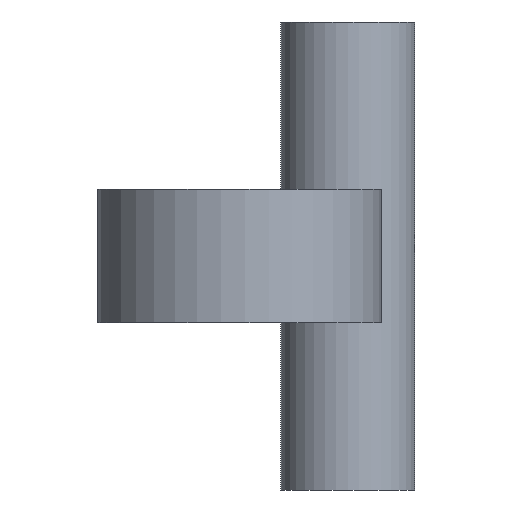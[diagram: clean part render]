
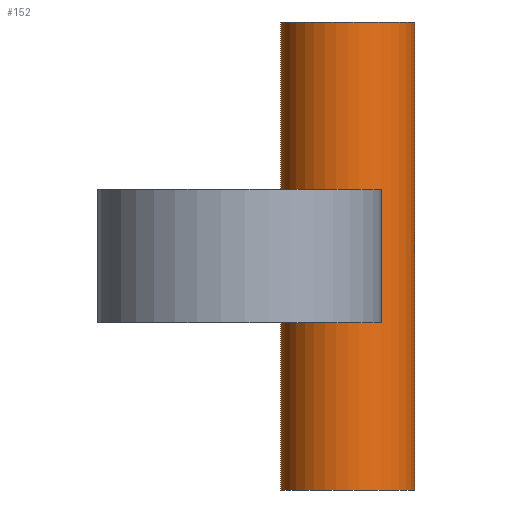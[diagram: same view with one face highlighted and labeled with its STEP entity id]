
A CAD part, front view. The second image highlights one B-rep face of the part: STEP entity #152.
In plain terms, the highlighted cylindrical face has radius 2 mm (diameter 4 mm), a full revolution.
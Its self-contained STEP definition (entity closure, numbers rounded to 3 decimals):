
#21=FACE_BOUND('',#34,.T.);
#24=FACE_OUTER_BOUND('',#33,.T.);
#33=EDGE_LOOP('',(#109,#110,#111,#112,#113,#114));
#34=EDGE_LOOP('',(#115,#116,#117,#118));
#45=LINE('',#257,#55);
#46=LINE('',#265,#56);
#47=LINE('',#268,#57);
#55=VECTOR('',#208,2.);
#56=VECTOR('',#215,10.);
#57=VECTOR('',#218,10.);
#65=CIRCLE('',#182,2.);
#66=CIRCLE('',#183,2.);
#67=CIRCLE('',#184,2.);
#68=CIRCLE('',#185,2.);
#69=CIRCLE('',#186,2.);
#70=CIRCLE('',#187,2.);
#75=VERTEX_POINT('',#252);
#76=VERTEX_POINT('',#253);
#77=VERTEX_POINT('',#256);
#78=VERTEX_POINT('',#258);
#79=VERTEX_POINT('',#261);
#80=VERTEX_POINT('',#262);
#81=VERTEX_POINT('',#264);
#82=VERTEX_POINT('',#266);
#89=EDGE_CURVE('',#75,#76,#65,.T.);
#90=EDGE_CURVE('',#76,#75,#66,.T.);
#91=EDGE_CURVE('',#76,#77,#45,.T.);
#92=EDGE_CURVE('',#78,#77,#67,.T.);
#93=EDGE_CURVE('',#77,#78,#68,.T.);
#94=EDGE_CURVE('',#79,#80,#69,.T.);
#95=EDGE_CURVE('',#79,#81,#46,.T.);
#96=EDGE_CURVE('',#82,#81,#70,.T.);
#97=EDGE_CURVE('',#80,#82,#47,.T.);
#109=ORIENTED_EDGE('',*,*,#89,.F.);
#110=ORIENTED_EDGE('',*,*,#90,.F.);
#111=ORIENTED_EDGE('',*,*,#91,.T.);
#112=ORIENTED_EDGE('',*,*,#92,.F.);
#113=ORIENTED_EDGE('',*,*,#93,.F.);
#114=ORIENTED_EDGE('',*,*,#91,.F.);
#115=ORIENTED_EDGE('',*,*,#94,.F.);
#116=ORIENTED_EDGE('',*,*,#95,.T.);
#117=ORIENTED_EDGE('',*,*,#96,.F.);
#118=ORIENTED_EDGE('',*,*,#97,.F.);
#149=CYLINDRICAL_SURFACE('',#181,2.);
#152=ADVANCED_FACE('',(#24,#21),#149,.T.);
#181=AXIS2_PLACEMENT_3D('',#251,#202,#203);
#182=AXIS2_PLACEMENT_3D('',#254,#204,#205);
#183=AXIS2_PLACEMENT_3D('',#255,#206,#207);
#184=AXIS2_PLACEMENT_3D('',#259,#209,#210);
#185=AXIS2_PLACEMENT_3D('',#260,#211,#212);
#186=AXIS2_PLACEMENT_3D('',#263,#213,#214);
#187=AXIS2_PLACEMENT_3D('',#267,#216,#217);
#202=DIRECTION('center_axis',(0.,0.,1.));
#203=DIRECTION('ref_axis',(1.,0.,0.));
#204=DIRECTION('center_axis',(0.,0.,1.));
#205=DIRECTION('ref_axis',(1.,0.,0.));
#206=DIRECTION('center_axis',(0.,0.,1.));
#207=DIRECTION('ref_axis',(1.,0.,0.));
#208=DIRECTION('',(0.,0.,-1.));
#209=DIRECTION('center_axis',(0.,0.,-1.));
#210=DIRECTION('ref_axis',(1.,0.,0.));
#211=DIRECTION('center_axis',(0.,0.,-1.));
#212=DIRECTION('ref_axis',(1.,0.,0.));
#213=DIRECTION('center_axis',(0.,0.,1.));
#214=DIRECTION('ref_axis',(-1.,0.,0.));
#215=DIRECTION('',(0.,0.,1.));
#216=DIRECTION('center_axis',(0.,0.,-1.));
#217=DIRECTION('ref_axis',(-1.,0.,0.));
#218=DIRECTION('',(0.,0.,1.));
#251=CARTESIAN_POINT('Origin',(3.25,22.717,0.));
#252=CARTESIAN_POINT('',(5.25,22.717,7.));
#253=CARTESIAN_POINT('',(1.25,22.717,7.));
#254=CARTESIAN_POINT('Origin',(3.25,22.717,7.));
#255=CARTESIAN_POINT('Origin',(3.25,22.717,7.));
#256=CARTESIAN_POINT('',(1.25,22.717,-7.));
#257=CARTESIAN_POINT('',(1.25,22.717,0.));
#258=CARTESIAN_POINT('',(5.25,22.717,-7.));
#259=CARTESIAN_POINT('Origin',(3.25,22.717,-7.));
#260=CARTESIAN_POINT('Origin',(3.25,22.717,-7.));
#261=CARTESIAN_POINT('',(2.25,20.985,-2.));
#262=CARTESIAN_POINT('',(4.25,20.985,-2.));
#263=CARTESIAN_POINT('Origin',(3.25,22.717,-2.));
#264=CARTESIAN_POINT('',(2.25,20.985,2.));
#265=CARTESIAN_POINT('',(2.25,20.985,0.));
#266=CARTESIAN_POINT('',(4.25,20.985,2.));
#267=CARTESIAN_POINT('Origin',(3.25,22.717,2.));
#268=CARTESIAN_POINT('',(4.25,20.985,0.));
